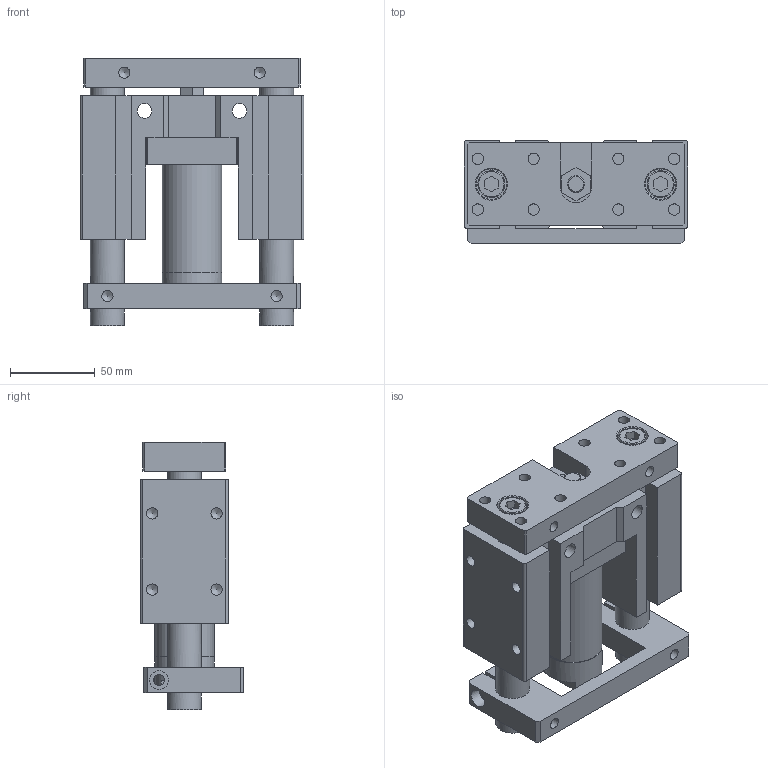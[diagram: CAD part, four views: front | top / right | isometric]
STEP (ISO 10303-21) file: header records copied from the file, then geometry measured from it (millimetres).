
FILE_DESCRIPTION((''),'2;1');
FILE_NAME('I:\3D電子目錄\氣缸\TMB(U)\TMB(U)\TMB(U)32\TMB(U)32x25.stp','2007-10-05T11:15:15',('Administrator'),(''),'Autodesk Inventor 11','Autodesk Inventor 11','');
FILE_SCHEMA(('AUTOMOTIVE_DESIGN { 1 0 10303 214 1 1 1 1 }'));
Length unit declared in the file: millimetre
Products named in the file (1): TMB(U)32
Bounding box: 132 x 61 x 158 mm (x, y, z)
Volume: 649772.3 mm3; surface area: 113527.9 mm2
Topology: 1 solids, 1 shells, 198 faces, 514 edges, 338 vertices
Faces by surface type: plane 117, bspline 41, cylinder 23, cone 15, torus 2
Full cylindrical faces by diameter (mm): 6.5 x2, 6.647 x6, 10 x1, 11 x1, 16 x2, 18 x2, 20 x2, 35 x2
Entity records: 6000 total; most frequent: CARTESIAN_POINT 1554, DIRECTION 850, ORIENTED_EDGE 842, EDGE_CURVE 421, EDGE_LOOP 320, VERTEX_POINT 313, VECTOR 300, LINE 300
